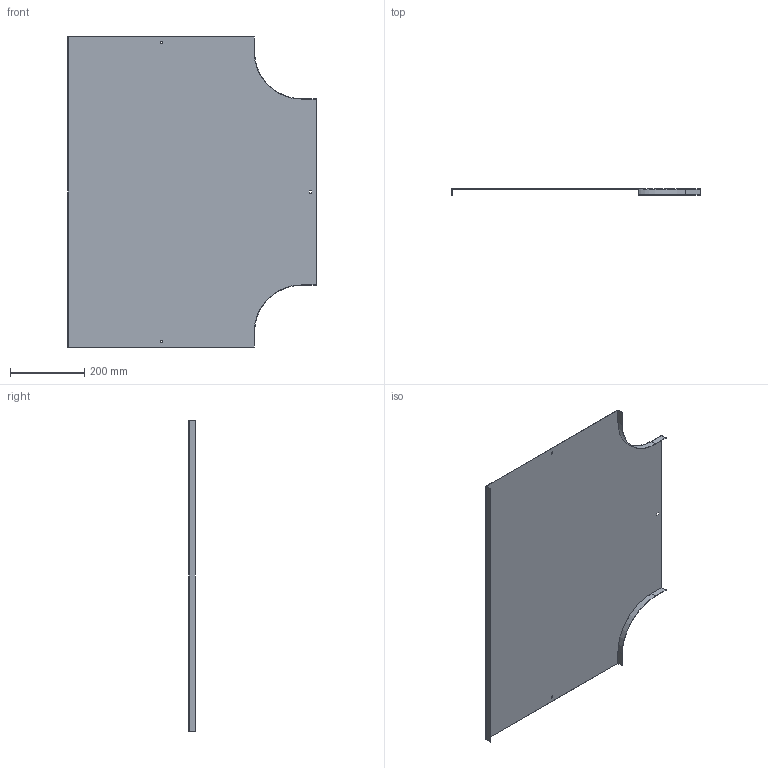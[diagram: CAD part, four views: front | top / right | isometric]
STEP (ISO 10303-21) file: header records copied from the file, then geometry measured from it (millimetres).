
FILE_DESCRIPTION (( 'STEP AP214' ), '1' );
FILE_NAME ('OT_500.step', '2025-07-16T09:18:26', ( '' ), ( '' ), 'SwSTEP 2.0', 'SolidWorks 2023', '' );
FILE_SCHEMA (( 'AUTOMOTIVE_DESIGN' ));
Length unit declared in the file: millimetre
Products named in the file (1): OT_500
Bounding box: 668 x 17 x 834 mm (x, y, z)
Volume: 530950.6 mm3; surface area: 1064971.1 mm2
Topology: 1 solids, 1 shells, 34 faces, 96 edges, 64 vertices
Faces by surface type: plane 30, cylinder 4
Entity records: 1123 total; most frequent: CARTESIAN_POINT 195, ORIENTED_EDGE 192, DIRECTION 174, EDGE_CURVE 96, LINE 88, VECTOR 88, VERTEX_POINT 64, AXIS2_PLACEMENT_3D 43
